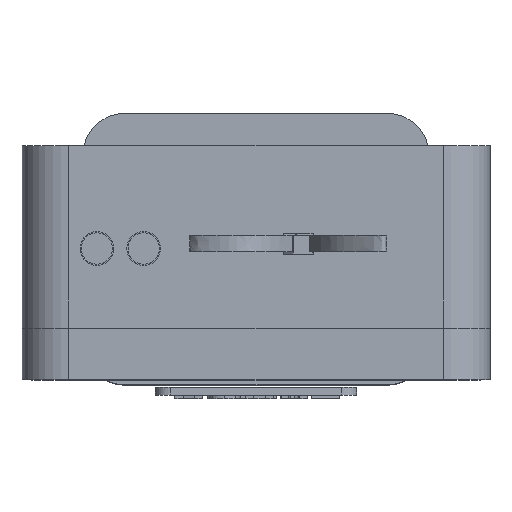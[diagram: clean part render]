
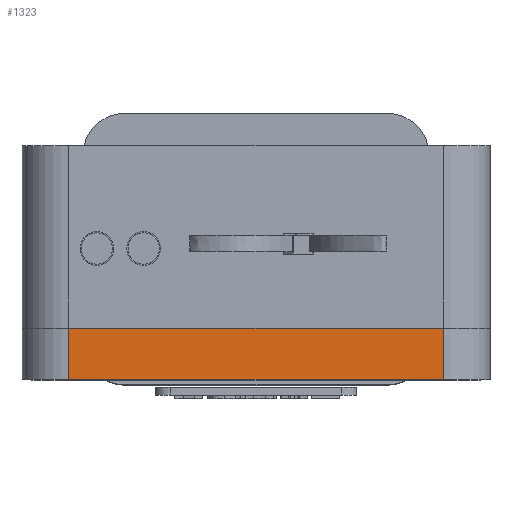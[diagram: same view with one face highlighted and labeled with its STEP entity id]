
A CAD part, top view. The second image highlights one B-rep face of the part: STEP entity #1323.
In plain terms, the highlighted planar face has unit normal (0, 0, 1).
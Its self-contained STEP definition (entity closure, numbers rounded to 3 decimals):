
#122 = PLANE('',#123);
#123 = AXIS2_PLACEMENT_3D('',#124,#125,#126);
#124 = CARTESIAN_POINT('',(-50.,-28.,66.));
#125 = DIRECTION('',(0.,-1.,0.));
#126 = DIRECTION('',(1.,0.,0.));
#178 = PLANE('',#179);
#179 = AXIS2_PLACEMENT_3D('',#180,#181,#182);
#180 = CARTESIAN_POINT('',(-50.,-17.,66.));
#181 = DIRECTION('',(0.,-1.,0.));
#182 = DIRECTION('',(1.,0.,0.));
#204 = CYLINDRICAL_SURFACE('',#205,10.);
#205 = AXIS2_PLACEMENT_3D('',#206,#207,#208);
#206 = CARTESIAN_POINT('',(-40.,-17.,114.));
#207 = DIRECTION('',(0.,-1.,0.));
#208 = DIRECTION('',(-1.,-0.,0.));
#334 = VERTEX_POINT('',#335);
#335 = CARTESIAN_POINT('',(40.,-28.,124.));
#350 = CYLINDRICAL_SURFACE('',#351,10.);
#351 = AXIS2_PLACEMENT_3D('',#352,#353,#354);
#352 = CARTESIAN_POINT('',(40.,-17.,114.));
#353 = DIRECTION('',(0.,-1.,0.));
#354 = DIRECTION('',(1.,0.,0.));
#362 = EDGE_CURVE('',#363,#334,#365,.T.);
#363 = VERTEX_POINT('',#364);
#364 = CARTESIAN_POINT('',(-40.,-28.,124.));
#365 = SURFACE_CURVE('',#366,(#370,#377),.PCURVE_S1.);
#366 = LINE('',#367,#368);
#367 = CARTESIAN_POINT('',(-50.,-28.,124.));
#368 = VECTOR('',#369,1.);
#369 = DIRECTION('',(1.,0.,0.));
#370 = PCURVE('',#122,#371);
#371 = DEFINITIONAL_REPRESENTATION('',(#372),#376);
#372 = LINE('',#373,#374);
#373 = CARTESIAN_POINT('',(0.,58.));
#374 = VECTOR('',#375,1.);
#375 = DIRECTION('',(1.,0.));
#376 = ( GEOMETRIC_REPRESENTATION_CONTEXT(2) 
PARAMETRIC_REPRESENTATION_CONTEXT() REPRESENTATION_CONTEXT('2D SPACE',''
  ) );
#377 = PCURVE('',#378,#383);
#378 = PLANE('',#379);
#379 = AXIS2_PLACEMENT_3D('',#380,#381,#382);
#380 = CARTESIAN_POINT('',(-50.,-17.,124.));
#381 = DIRECTION('',(0.,0.,1.));
#382 = DIRECTION('',(0.,-1.,0.));
#383 = DEFINITIONAL_REPRESENTATION('',(#384),#388);
#384 = LINE('',#385,#386);
#385 = CARTESIAN_POINT('',(11.,0.));
#386 = VECTOR('',#387,1.);
#387 = DIRECTION('',(0.,1.));
#388 = ( GEOMETRIC_REPRESENTATION_CONTEXT(2) 
PARAMETRIC_REPRESENTATION_CONTEXT() REPRESENTATION_CONTEXT('2D SPACE',''
  ) );
#816 = VERTEX_POINT('',#817);
#817 = CARTESIAN_POINT('',(-40.,-17.,124.));
#843 = EDGE_CURVE('',#816,#363,#844,.T.);
#844 = SURFACE_CURVE('',#845,(#849,#856),.PCURVE_S1.);
#845 = LINE('',#846,#847);
#846 = CARTESIAN_POINT('',(-40.,-17.,124.));
#847 = VECTOR('',#848,1.);
#848 = DIRECTION('',(0.,-1.,0.));
#849 = PCURVE('',#204,#850);
#850 = DEFINITIONAL_REPRESENTATION('',(#851),#855);
#851 = LINE('',#852,#853);
#852 = CARTESIAN_POINT('',(-1.571,0.));
#853 = VECTOR('',#854,1.);
#854 = DIRECTION('',(-0.,1.));
#855 = ( GEOMETRIC_REPRESENTATION_CONTEXT(2) 
PARAMETRIC_REPRESENTATION_CONTEXT() REPRESENTATION_CONTEXT('2D SPACE',''
  ) );
#856 = PCURVE('',#378,#857);
#857 = DEFINITIONAL_REPRESENTATION('',(#858),#862);
#858 = LINE('',#859,#860);
#859 = CARTESIAN_POINT('',(0.,10.));
#860 = VECTOR('',#861,1.);
#861 = DIRECTION('',(1.,0.));
#862 = ( GEOMETRIC_REPRESENTATION_CONTEXT(2) 
PARAMETRIC_REPRESENTATION_CONTEXT() REPRESENTATION_CONTEXT('2D SPACE',''
  ) );
#946 = VERTEX_POINT('',#947);
#947 = CARTESIAN_POINT('',(40.,-17.,124.));
#969 = EDGE_CURVE('',#816,#946,#970,.T.);
#970 = SURFACE_CURVE('',#971,(#975,#982),.PCURVE_S1.);
#971 = LINE('',#972,#973);
#972 = CARTESIAN_POINT('',(-50.,-17.,124.));
#973 = VECTOR('',#974,1.);
#974 = DIRECTION('',(1.,0.,0.));
#975 = PCURVE('',#178,#976);
#976 = DEFINITIONAL_REPRESENTATION('',(#977),#981);
#977 = LINE('',#978,#979);
#978 = CARTESIAN_POINT('',(0.,58.));
#979 = VECTOR('',#980,1.);
#980 = DIRECTION('',(1.,0.));
#981 = ( GEOMETRIC_REPRESENTATION_CONTEXT(2) 
PARAMETRIC_REPRESENTATION_CONTEXT() REPRESENTATION_CONTEXT('2D SPACE',''
  ) );
#982 = PCURVE('',#378,#983);
#983 = DEFINITIONAL_REPRESENTATION('',(#984),#988);
#984 = LINE('',#985,#986);
#985 = CARTESIAN_POINT('',(0.,0.));
#986 = VECTOR('',#987,1.);
#987 = DIRECTION('',(0.,1.));
#988 = ( GEOMETRIC_REPRESENTATION_CONTEXT(2) 
PARAMETRIC_REPRESENTATION_CONTEXT() REPRESENTATION_CONTEXT('2D SPACE',''
  ) );
#1323 = ADVANCED_FACE('',(#1324),#378,.T.);
#1324 = FACE_BOUND('',#1325,.T.);
#1325 = EDGE_LOOP('',(#1326,#1327,#1328,#1329));
#1326 = ORIENTED_EDGE('',*,*,#969,.F.);
#1327 = ORIENTED_EDGE('',*,*,#843,.T.);
#1328 = ORIENTED_EDGE('',*,*,#362,.T.);
#1329 = ORIENTED_EDGE('',*,*,#1330,.F.);
#1330 = EDGE_CURVE('',#946,#334,#1331,.T.);
#1331 = SURFACE_CURVE('',#1332,(#1336,#1343),.PCURVE_S1.);
#1332 = LINE('',#1333,#1334);
#1333 = CARTESIAN_POINT('',(40.,-17.,124.));
#1334 = VECTOR('',#1335,1.);
#1335 = DIRECTION('',(0.,-1.,0.));
#1336 = PCURVE('',#378,#1337);
#1337 = DEFINITIONAL_REPRESENTATION('',(#1338),#1342);
#1338 = LINE('',#1339,#1340);
#1339 = CARTESIAN_POINT('',(0.,90.));
#1340 = VECTOR('',#1341,1.);
#1341 = DIRECTION('',(1.,0.));
#1342 = ( GEOMETRIC_REPRESENTATION_CONTEXT(2) 
PARAMETRIC_REPRESENTATION_CONTEXT() REPRESENTATION_CONTEXT('2D SPACE',''
  ) );
#1343 = PCURVE('',#350,#1344);
#1344 = DEFINITIONAL_REPRESENTATION('',(#1345),#1349);
#1345 = LINE('',#1346,#1347);
#1346 = CARTESIAN_POINT('',(1.571,0.));
#1347 = VECTOR('',#1348,1.);
#1348 = DIRECTION('',(0.,1.));
#1349 = ( GEOMETRIC_REPRESENTATION_CONTEXT(2) 
PARAMETRIC_REPRESENTATION_CONTEXT() REPRESENTATION_CONTEXT('2D SPACE',''
  ) );
